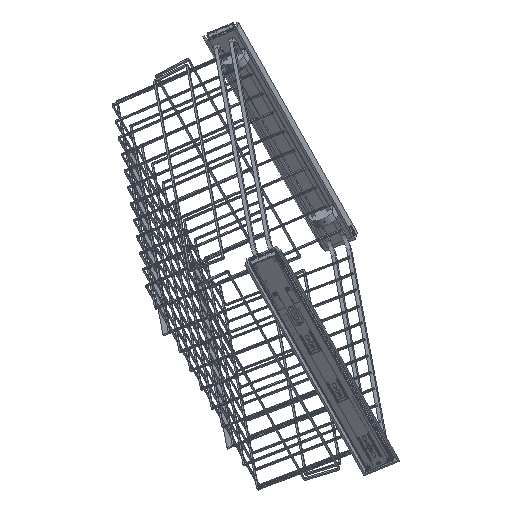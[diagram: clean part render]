
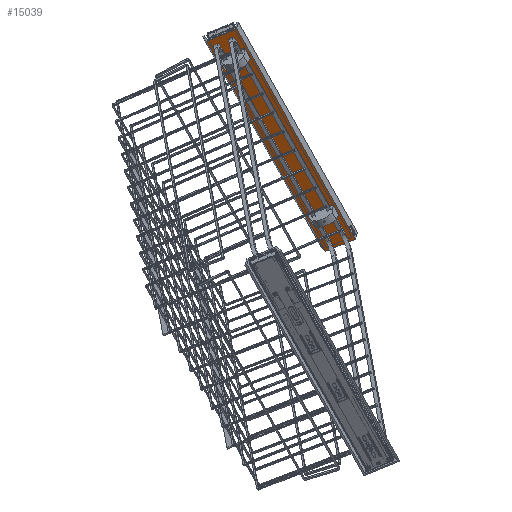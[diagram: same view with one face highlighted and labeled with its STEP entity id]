
A CAD part, top view. The second image highlights one B-rep face of the part: STEP entity #15039.
In plain terms, the highlighted planar face has unit normal (0.115, -0.62, 0.776) as drawn and (1, 0, 0) by its records, which use the part's own axes.
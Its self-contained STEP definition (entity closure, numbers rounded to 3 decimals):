
#557=FACE_BOUND('',#2227,.T.);
#558=FACE_BOUND('',#2228,.T.);
#831=PLANE('',#16319);
#1424=FACE_OUTER_BOUND('',#2226,.T.);
#2226=EDGE_LOOP('',(#11466,#11467,#11468,#11469));
#2227=EDGE_LOOP('',(#11470));
#2228=EDGE_LOOP('',(#11471,#11472,#11473,#11474));
#2953=CIRCLE('',#16310,2.15);
#2954=CIRCLE('',#16312,2.15);
#2955=CIRCLE('',#16315,2.15);
#3759=LINE('',#22663,#5430);
#3765=LINE('',#22672,#5436);
#3770=LINE('',#22687,#5441);
#3773=LINE('',#22694,#5444);
#3775=LINE('',#22699,#5446);
#3776=LINE('',#22701,#5447);
#5430=VECTOR('',#18321,10.);
#5436=VECTOR('',#18331,10.);
#5441=VECTOR('',#18348,10.);
#5444=VECTOR('',#18357,10.);
#5446=VECTOR('',#18363,10.);
#5447=VECTOR('',#18366,10.);
#7004=VERTEX_POINT('',#22660);
#7005=VERTEX_POINT('',#22662);
#7006=VERTEX_POINT('',#22670);
#7007=VERTEX_POINT('',#22676);
#7008=VERTEX_POINT('',#22680);
#7009=VERTEX_POINT('',#22682);
#7010=VERTEX_POINT('',#22686);
#7011=VERTEX_POINT('',#22690);
#7012=VERTEX_POINT('',#22697);
#8656=EDGE_CURVE('',#7004,#7005,#3759,.T.);
#8662=EDGE_CURVE('',#7006,#7004,#3765,.T.);
#8664=EDGE_CURVE('',#7007,#7007,#2953,.T.);
#8667=EDGE_CURVE('',#7009,#7008,#2954,.T.);
#8669=EDGE_CURVE('',#7010,#7009,#3770,.T.);
#8671=EDGE_CURVE('',#7011,#7010,#2955,.T.);
#8673=EDGE_CURVE('',#7008,#7011,#3773,.T.);
#8675=EDGE_CURVE('',#7006,#7012,#3775,.T.);
#8676=EDGE_CURVE('',#7005,#7012,#3776,.T.);
#11466=ORIENTED_EDGE('',*,*,#8662,.F.);
#11467=ORIENTED_EDGE('',*,*,#8675,.T.);
#11468=ORIENTED_EDGE('',*,*,#8676,.F.);
#11469=ORIENTED_EDGE('',*,*,#8656,.F.);
#11470=ORIENTED_EDGE('',*,*,#8664,.T.);
#11471=ORIENTED_EDGE('',*,*,#8671,.T.);
#11472=ORIENTED_EDGE('',*,*,#8669,.T.);
#11473=ORIENTED_EDGE('',*,*,#8667,.T.);
#11474=ORIENTED_EDGE('',*,*,#8673,.T.);
#15039=ADVANCED_FACE('',(#1424,#557,#558),#831,.T.);
#16310=AXIS2_PLACEMENT_3D('',#22677,#18337,#18338);
#16312=AXIS2_PLACEMENT_3D('',#22683,#18343,#18344);
#16315=AXIS2_PLACEMENT_3D('',#22691,#18352,#18353);
#16319=AXIS2_PLACEMENT_3D('',#22700,#18364,#18365);
#18321=DIRECTION('',(0.,0.,1.));
#18331=DIRECTION('',(0.,-1.,0.));
#18337=DIRECTION('center_axis',(-1.,0.,0.));
#18338=DIRECTION('ref_axis',(0.,0.,
1.));
#18343=DIRECTION('center_axis',(-1.,0.,0.));
#18344=DIRECTION('ref_axis',(0.,1.,0.));
#18348=DIRECTION('',(0.,0.,-1.));
#18352=DIRECTION('center_axis',(-1.,0.,0.));
#18353=DIRECTION('ref_axis',(0.,-1.,0.));
#18357=DIRECTION('',(0.,0.,1.));
#18363=DIRECTION('',(0.,0.,1.));
#18364=DIRECTION('center_axis',(1.,0.,0.));
#18365=DIRECTION('ref_axis',(0.,1.,0.));
#18366=DIRECTION('',(0.,1.,0.));
#22660=CARTESIAN_POINT('',(3.486,-45.761,0.));
#22662=CARTESIAN_POINT('',(3.486,-45.761,458.));
#22663=CARTESIAN_POINT('',(3.486,-45.761,0.));
#22670=CARTESIAN_POINT('',(3.486,3.633,0.));
#22672=CARTESIAN_POINT('',(3.486,3.633,0.));
#22676=CARTESIAN_POINT('',(3.486,-21.065,387.85));
#22677=CARTESIAN_POINT('Origin',(3.486,-21.065,390.));
#22680=CARTESIAN_POINT('',(3.486,-23.228,45.));
#22682=CARTESIAN_POINT('',(3.486,-18.928,45.));
#22683=CARTESIAN_POINT('Origin',(3.486,-21.078,45.));
#22686=CARTESIAN_POINT('',(3.486,-18.928,73.));
#22687=CARTESIAN_POINT('',(3.486,-18.928,36.5));
#22690=CARTESIAN_POINT('',(3.486,-23.228,73.));
#22691=CARTESIAN_POINT('Origin',(3.486,-21.078,73.));
#22694=CARTESIAN_POINT('',(3.486,-23.228,22.5));
#22697=CARTESIAN_POINT('',(3.486,3.633,458.));
#22699=CARTESIAN_POINT('',(3.486,3.633,0.));
#22700=CARTESIAN_POINT('Origin',(3.486,-21.064,0.));
#22701=CARTESIAN_POINT('',(3.486,-21.064,458.));
